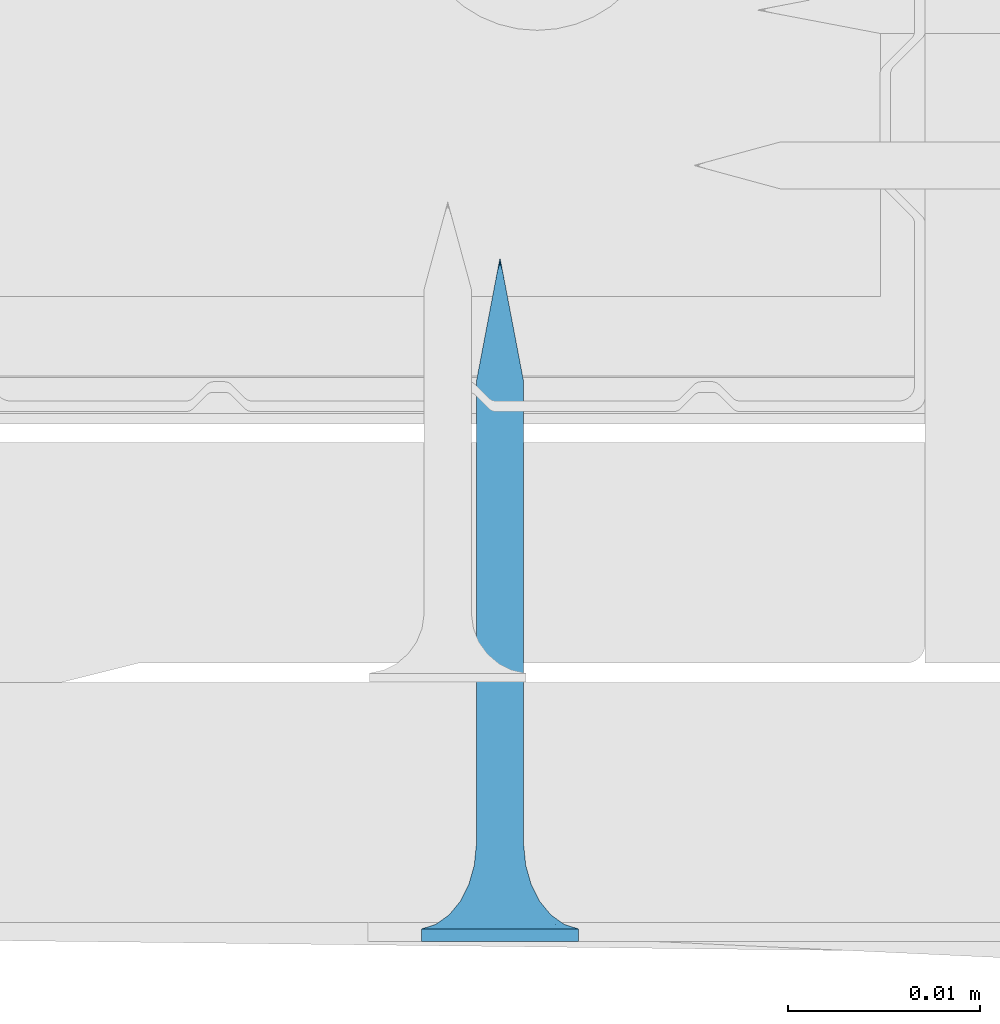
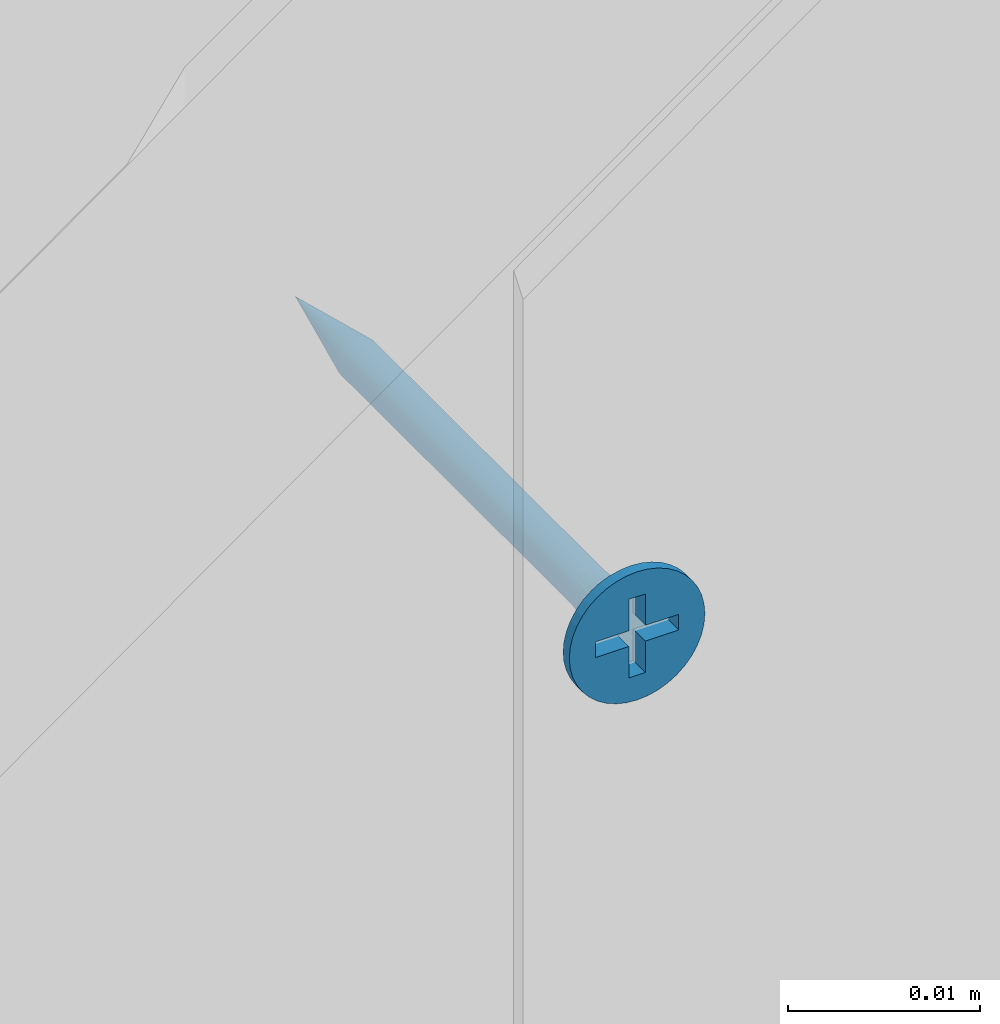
# One storey, part 33 of 43: 1 wall.
"""IFC2X3 building model written with IfcOpenShell, lengths in millimetres."""

from ifc_helpers import new_model, entity, si_unit, converted_unit, direction, frame, origin, origin_with_axes, place, context, project, spatial, faceted_brep, element, save


model = new_model("IFC2X3")

# Units and contexts
model_context = context("Model", 3, precision=1e-05, world=origin(), true_north=direction((0.0, 1.0, 0.0)))
ifc_project = project(units=[si_unit("LENGTHUNIT", "METRE", prefix="MILLI"), si_unit("AREAUNIT", "SQUARE_METRE"), si_unit("VOLUMEUNIT", "CUBIC_METRE"), converted_unit("PLANEANGLEUNIT", "DEGREE", entity("IfcPlaneAngleMeasure", 0.01745), si_unit("PLANEANGLEUNIT", "RADIAN"), dimensions=[0, 0, 0, 0, 0, 0, 0]), si_unit("SOLIDANGLEUNIT", "STERADIAN"), si_unit("MASSUNIT", "GRAM"), si_unit("TIMEUNIT", "SECOND"), si_unit("THERMODYNAMICTEMPERATUREUNIT", "DEGREE_CELSIUS"), si_unit("LUMINOUSINTENSITYUNIT", "LUMEN")], contexts=[model_context])

# Site, building, storey
site_placement = place(None, origin_with_axes())
site = spatial("IfcSite", under=ifc_project, at=site_placement, Name="Default Site", CompositionType="ELEMENT")
building_placement = place(site_placement, origin_with_axes())
building = spatial("IfcBuilding", under=site, at=building_placement, Name="Default Building", CompositionType="ELEMENT")
storey_placement = place(building_placement, origin_with_axes())
storey = spatial("IfcBuildingStorey", under=building, at=storey_placement, Name="Default Building Storey", CompositionType="ELEMENT", Elevation=0.0)

# Wall
wall_placement = place(storey_placement, frame((3636.691277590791, 6773.439791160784, 103.0621105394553), z_axis=(0.0, 0.0, 1.0), x_axis=(-1.0, 4.718447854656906e-16, 0.0)))
element("IfcWall", 1, at=wall_placement, inside=storey, Name="Wkręt RIGIPS TN 35", context=model_context, shape_type="Brep", body=[
    faceted_brep([(-141.5377463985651, 4832.598051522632, 555.8000000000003), (-141.5377463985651, 4833.259713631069, 555.8000000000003), (-141.4875329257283, 4833.259713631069, 555.1619773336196), (-141.4875329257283, 4832.598051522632, 555.1619773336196), (-141.3381289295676, 4833.259713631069, 554.5396649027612), (-141.3381289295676, 4832.598051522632, 554.5396649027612), (-141.0932132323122, 4833.259713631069, 553.9483861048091), (-141.0932132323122, 4832.598051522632, 553.9483861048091), (-140.7588164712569, 4833.259713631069, 553.4027001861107), (-140.7588164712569, 4832.598051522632, 553.4027001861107), (-140.3431726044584, 4833.259713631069, 552.9160437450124), (-140.4541727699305, 4832.598051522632, 553.0314907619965), (-140.1080097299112, 4832.598051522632, 552.6986614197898), (-139.8565161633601, 4833.259713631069, 552.5003998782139), (-139.7251262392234, 4832.598051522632, 552.4088262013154), (-139.3108302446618, 4833.259713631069, 552.1660031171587), (-139.3108302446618, 4832.598051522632, 552.1660031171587), (-138.8708651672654, 4832.598051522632, 551.9735584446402), (-138.7195514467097, 4833.259713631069, 551.9210874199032), (-138.4113302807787, 4832.598051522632, 551.8341600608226), (-137.9385961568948, 4832.598051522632, 551.7497404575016), (-138.0972390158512, 4833.259713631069, 551.7716834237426), (-137.4592163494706, 4833.259713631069, 551.7214699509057), (-137.4592163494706, 4832.598051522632, 551.7214699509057), (-136.8211936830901, 4833.259713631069, 551.7716834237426), (-136.8211936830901, 4832.598051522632, 551.7716834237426), (-136.1988812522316, 4833.259713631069, 551.9210874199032), (-136.1988812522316, 4832.598051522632, 551.9210874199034), (-135.6076024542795, 4833.259713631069, 552.1660031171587), (-135.6076024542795, 4832.598051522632, 552.1660031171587), (-135.0619165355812, 4833.259713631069, 552.5003998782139), (-135.0619165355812, 4832.598051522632, 552.5003998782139), (-134.5752600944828, 4833.259713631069, 552.9160437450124), (-134.5752600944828, 4832.598051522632, 552.9160437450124), (-134.1596162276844, 4833.259713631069, 553.4027001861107), (-134.1596162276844, 4832.598051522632, 553.4027001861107), (-133.8252194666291, 4833.259713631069, 553.9483861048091), (-133.8252194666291, 4832.598051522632, 553.9483861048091), (-133.5803037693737, 4833.259713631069, 554.5396649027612), (-133.5803037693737, 4832.598051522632, 554.5396649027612), (-133.430899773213, 4833.259713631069, 556.4380226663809), (-133.430899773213, 4832.598051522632, 556.4380226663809), (-133.3806863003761, 4832.598051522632, 555.8000000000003), (-133.3806863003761, 4833.259713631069, 555.8000000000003), (-133.430899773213, 4832.598051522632, 555.1619773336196), (-133.430899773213, 4833.259713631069, 555.1619773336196), (-133.5803037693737, 4833.259713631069, 557.0603350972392), (-133.5803037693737, 4832.598051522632, 557.0603350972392), (-133.8252194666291, 4833.259713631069, 557.6516138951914), (-133.8252194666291, 4832.598051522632, 557.6516138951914), (-134.1596162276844, 4833.259713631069, 558.1972998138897), (-134.1596162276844, 4832.598051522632, 558.1972998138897), (-134.5752600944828, 4833.259713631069, 558.683956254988), (-134.5752600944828, 4832.598051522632, 558.683956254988), (-135.0619165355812, 4833.259713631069, 559.0996001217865), (-135.0619165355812, 4832.598051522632, 559.0996001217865), (-135.6076024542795, 4833.259713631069, 559.4339968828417), (-135.6076024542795, 4832.598051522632, 559.4339968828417), (-136.1988812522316, 4833.259713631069, 559.6789125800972), (-136.1988812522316, 4832.598051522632, 559.6789125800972), (-136.8211936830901, 4833.259713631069, 559.8283165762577), (-136.8211936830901, 4832.598051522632, 559.8283165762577), (-137.4592163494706, 4833.259713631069, 559.8785300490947), (-137.4592163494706, 4832.598051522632, 559.8785300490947), (-138.0972390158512, 4833.259713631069, 559.8283165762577), (-138.0972390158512, 4832.598051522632, 559.8283165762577), (-138.7195514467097, 4833.259713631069, 559.6789125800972), (-138.7195514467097, 4832.598051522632, 559.6789125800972), (-139.3108302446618, 4833.259713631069, 559.4339968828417), (-139.3108302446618, 4832.598051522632, 559.4339968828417), (-139.8565161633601, 4833.259713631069, 559.0996001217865), (-139.8565161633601, 4832.598051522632, 559.0996001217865), (-140.3431726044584, 4833.259713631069, 558.683956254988), (-140.3431726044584, 4832.598051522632, 558.683956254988), (-140.7588164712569, 4833.259713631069, 558.1972998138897), (-140.7588164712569, 4832.598051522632, 558.1972998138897), (-141.0932132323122, 4833.259713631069, 557.6516138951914), (-141.0932132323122, 4832.598051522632, 557.6516138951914), (-141.3381289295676, 4833.259713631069, 557.0603350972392), (-141.3381289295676, 4832.598051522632, 557.0603350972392), (-141.4875329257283, 4833.259713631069, 556.4380226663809), (-141.4875329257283, 4832.598051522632, 556.4380226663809), (-137.8060615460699, 4829.281368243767, 554.5055560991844), (-137.4592163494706, 4828.206294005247, 554.5693795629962), (-137.651727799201, 4828.206294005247, 554.5845305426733), (-137.4592163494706, 4829.281368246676, 554.4598930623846), (-137.83949897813, 4828.206294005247, 554.6296104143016), (-138.1292698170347, 4829.281368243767, 554.639433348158), (-138.0179063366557, 4828.206294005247, 554.7035091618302), (-138.1825568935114, 4828.206294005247, 554.804407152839), (-138.4068150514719, 4829.281368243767, 554.8524012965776), (-138.329396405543, 4828.206294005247, 554.929819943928), (-138.6197830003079, 4829.281368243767, 555.1299465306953), (-138.4548091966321, 4828.206294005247, 555.0766594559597), (-138.5557071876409, 4828.206294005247, 555.2413100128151), (-138.7536602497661, 4829.281368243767, 555.4531548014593), (-138.6296059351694, 4828.206294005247, 555.4197173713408), (-138.6746858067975, 4828.206294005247, 555.60748855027), (-138.7993232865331, 4829.281368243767, 555.7999999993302), (-138.6898367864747, 4828.206294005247, 555.8000000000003), (-138.753660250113, 4829.281368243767, 556.1468451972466), (-138.6746858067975, 4828.206294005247, 555.9925114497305), (-138.6296059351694, 4828.206294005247, 556.1802826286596), (-138.6197830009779, 4829.281368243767, 556.4700534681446), (-138.5557071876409, 4828.206294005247, 556.3586899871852), (-138.4548091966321, 4828.206294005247, 556.5233405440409), (-138.4068150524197, 4829.281368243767, 556.7475987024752), (-138.329396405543, 4828.206294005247, 556.6701800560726), (-138.1292698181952, 4829.281368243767, 556.9605666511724), (-138.1825568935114, 4828.206294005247, 556.7955928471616), (-138.0179063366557, 4828.206294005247, 556.8964908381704), (-137.8060615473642, 4829.281368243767, 557.0944439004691), (-137.83949897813, 4828.206294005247, 556.9703895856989), (-137.651727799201, 4828.206294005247, 557.0154694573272), (-137.4592163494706, 4829.281368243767, 557.1401069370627), (-137.4592163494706, 4828.206294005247, 557.0306204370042), (-137.112371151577, 4829.281368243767, 557.0944439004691), (-137.2667048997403, 4828.206294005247, 557.0154694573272), (-137.0789337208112, 4828.206294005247, 556.9703895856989), (-136.7891628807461, 4829.281368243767, 556.9605666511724), (-136.9005263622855, 4828.206294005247, 556.8964908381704), (-136.7358758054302, 4828.206294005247, 556.7955928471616), (-136.5116176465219, 4829.281368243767, 556.7475987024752), (-136.5890362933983, 4828.206294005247, 556.6701800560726), (-136.2986496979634, 4829.281368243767, 556.4700534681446), (-136.4636235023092, 4828.206294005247, 556.5233405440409), (-136.3627255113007, 4828.206294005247, 556.3586899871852), (-136.1647724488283, 4829.281368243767, 556.1468451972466), (-136.2888267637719, 4828.206294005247, 556.1802826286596), (-136.2437468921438, 4828.206294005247, 555.9925114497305), (-136.1191094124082, 4829.281368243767, 555.7999999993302), (-136.2285959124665, 4828.206294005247, 555.8000000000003), (-136.1647724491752, 4829.281368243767, 555.4531548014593), (-136.2437468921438, 4828.206294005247, 555.60748855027), (-136.2888267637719, 4828.206294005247, 555.4197173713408), (-136.2986496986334, 4829.281368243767, 555.1299465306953), (-136.3627255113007, 4828.206294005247, 555.2413100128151), (-136.4636235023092, 4828.206294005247, 555.0766594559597), (-136.5116176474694, 4829.281368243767, 554.8524012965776), (-136.5890362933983, 4828.206294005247, 554.929819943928), (-136.7891628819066, 4829.281368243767, 554.639433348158), (-136.7358758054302, 4828.206294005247, 554.804407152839), (-136.9005263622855, 4828.206294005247, 554.7035091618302), (-137.1123711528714, 4829.281368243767, 554.5055560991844), (-137.0789337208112, 4828.206294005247, 554.6296104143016), (-137.2667048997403, 4828.206294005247, 554.5845305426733), (-137.4592163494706, 4830.288222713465, 554.1737111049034), (-137.8801308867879, 4830.288222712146, 554.229125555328), (-138.2723607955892, 4830.288222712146, 554.3915925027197), (-138.6091762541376, 4830.288222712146, 554.6500400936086), (-138.8676238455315, 4830.288222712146, 554.9868555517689), (-139.0300907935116, 4830.288222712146, 555.3790854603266), (-139.0855052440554, 4830.288222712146, 555.7999999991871), (-139.0300907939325, 4830.288222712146, 556.2209145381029), (-138.8676238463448, 4830.288222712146, 556.6131444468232), (-138.6091762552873, 4830.288222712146, 556.9499599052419), (-138.2723607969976, 4830.288222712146, 557.2084074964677), (-137.8801308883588, 4830.288222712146, 557.3708744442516), (-137.4592163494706, 4830.288222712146, 557.426288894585), (-137.0383018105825, 4830.288222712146, 557.3708744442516), (-136.6460719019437, 4830.288222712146, 557.2084074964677), (-136.309256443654, 4830.288222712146, 556.9499599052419), (-136.0508088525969, 4830.288222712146, 556.6131444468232), (-135.8883419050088, 4830.288222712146, 556.2209145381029), (-135.8329274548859, 4830.288222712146, 555.7999999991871), (-135.8883419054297, 4830.288222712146, 555.3790854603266), (-136.0508088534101, 4830.288222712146, 554.9868555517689), (-136.309256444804, 4830.288222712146, 554.6500400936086), (-136.6460719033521, 4830.288222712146, 554.3915925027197), (-137.0383018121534, 4830.288222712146, 554.229125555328), (-137.4592163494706, 4831.168773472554, 553.7273431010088), (-137.9956594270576, 4831.168773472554, 553.7979671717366), (-138.4955447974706, 4831.168773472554, 554.005026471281), (-138.9248060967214, 4831.168773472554, 554.3344102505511), (-139.2541898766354, 4831.168773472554, 554.7636715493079), (-139.4612491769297, 4831.168773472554, 555.2635569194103), (-139.5318732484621, 4831.168773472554, 555.7999999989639), (-139.461249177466, 4831.168773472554, 556.3364430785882), (-139.2541898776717, 4831.168773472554, 556.8363284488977), (-138.9248060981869, 4831.168773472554, 557.2655897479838), (-138.4955447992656, 4831.168773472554, 557.594973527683), (-137.9956594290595, 4831.168773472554, 557.8020328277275), (-137.4592163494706, 4831.168773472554, 557.8726568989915), (-136.9227732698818, 4831.168773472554, 557.8020328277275), (-136.4228878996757, 4831.168773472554, 557.594973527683), (-135.9936266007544, 4831.168773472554, 557.2655897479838), (-135.6642428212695, 4831.168773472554, 556.8363284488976), (-135.4571835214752, 4831.168773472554, 556.3364430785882), (-135.3865594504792, 4831.168773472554, 555.7999999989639), (-135.4571835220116, 4831.168773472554, 555.2635569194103), (-135.6642428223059, 4831.168773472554, 554.7636715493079), (-135.9936266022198, 4831.168773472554, 554.3344102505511), (-136.4228879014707, 4831.168773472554, 554.005026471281), (-136.9227732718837, 4831.168773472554, 553.7979671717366), (-137.4592163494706, 4831.872222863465, 553.1465393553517), (-138.1459824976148, 4831.872222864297, 553.2369538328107), (-138.7859466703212, 4831.872222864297, 553.5020356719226), (-139.3354963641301, 4831.872222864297, 553.9237199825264), (-139.7571806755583, 4831.872222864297, 554.4732696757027), (-140.02226251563, 4831.872222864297, 555.1132338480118), (-140.1126769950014, 4831.872222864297, 555.7999999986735), (-140.0222625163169, 4831.872222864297, 556.4867661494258), (-139.7571806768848, 4831.872222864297, 557.1267303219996), (-139.3354963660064, 4831.872222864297, 557.6762800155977), (-138.785946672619, 4831.872222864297, 558.0979643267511), (-138.1459825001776, 4831.872222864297, 558.3630461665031), (-137.4592163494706, 4831.872222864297, 558.4534606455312), (-136.7724501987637, 4831.872222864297, 558.3630461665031), (-136.1324860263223, 4831.872222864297, 558.0979643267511), (-135.5829363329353, 4831.872222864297, 557.6762800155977), (-135.1612520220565, 4831.872222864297, 557.1267303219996), (-134.8961701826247, 4831.872222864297, 556.4867661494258), (-134.8057557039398, 4831.872222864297, 555.7999999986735), (-134.8961701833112, 4831.872222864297, 555.1132338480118), (-135.161252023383, 4831.872222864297, 554.4732696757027), (-135.5829363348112, 4831.872222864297, 553.9237199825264), (-136.1324860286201, 4831.872222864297, 553.5020356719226), (-136.7724502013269, 4831.872222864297, 553.2369538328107), (-137.4592163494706, 4832.357989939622, 552.4648055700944), (-138.3224281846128, 4832.357989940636, 552.578449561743), (-139.1268135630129, 4832.357989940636, 552.9116368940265), (-139.8175549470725, 4832.357989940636, 553.4416613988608), (-140.3475794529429, 4832.357989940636, 554.1324027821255), (-140.6807667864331, 4832.357989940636, 554.9367881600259), (-140.7944107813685, 4832.357989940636, 555.7999999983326), (-140.6807667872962, 4832.357989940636, 556.6632118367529), (-140.3475794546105, 4832.357989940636, 557.4675972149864), (-139.817554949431, 4832.357989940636, 558.1583385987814), (-139.1268135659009, 4832.357989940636, 558.6883631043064), (-138.3224281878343, 4832.357989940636, 559.0215504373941), (-137.4592163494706, 4832.357989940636, 559.1351944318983), (-136.5960045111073, 4832.357989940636, 559.0215504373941), (-135.7916191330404, 4832.357989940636, 558.6883631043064), (-135.1008777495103, 4832.357989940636, 558.1583385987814), (-134.5708532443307, 4832.357989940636, 557.4675972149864), (-134.2376659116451, 4832.357989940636, 556.6632118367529), (-134.1240219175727, 4832.357989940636, 555.7999999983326), (-134.2376659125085, 4832.357989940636, 554.9367881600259), (-134.5708532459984, 4832.357989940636, 554.1324027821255), (-135.1008777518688, 4832.357989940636, 553.4416613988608), (-135.7916191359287, 4832.357989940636, 552.9116368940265), (-136.5960045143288, 4832.357989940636, 552.578449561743), (-138.6898367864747, 4804.093757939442, 555.8000000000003), (-138.6746858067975, 4804.093757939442, 555.60748855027), (-138.6296059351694, 4804.093757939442, 555.4197173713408), (-138.5557071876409, 4804.093757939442, 555.2413100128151), (-138.4548091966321, 4804.093757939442, 555.0766594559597), (-138.329396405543, 4804.093757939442, 554.929819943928), (-138.1825568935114, 4804.093757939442, 554.804407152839), (-138.0179063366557, 4804.093757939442, 554.7035091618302), (-137.83949897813, 4804.093757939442, 554.6296104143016), (-137.651727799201, 4804.093757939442, 554.5845305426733), (-137.4592163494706, 4804.093757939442, 554.5693795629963), (-137.2667048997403, 4804.093757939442, 554.5845305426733), (-137.0789337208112, 4804.093757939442, 554.6296104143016), (-136.9005263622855, 4804.093757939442, 554.7035091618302), (-136.7358758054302, 4804.093757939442, 554.804407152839), (-136.5890362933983, 4804.093757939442, 554.929819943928), (-136.4636235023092, 4804.093757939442, 555.0766594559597), (-136.3627255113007, 4804.093757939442, 555.2413100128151), (-136.2888267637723, 4804.093757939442, 555.4197173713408), (-136.2437468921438, 4804.093757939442, 555.9925114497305), (-136.2285959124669, 4804.093757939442, 555.8000000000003), (-136.2437468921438, 4804.093757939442, 555.60748855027), (-136.2888267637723, 4804.093757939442, 556.1802826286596), (-136.3627255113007, 4804.093757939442, 556.3586899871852), (-136.4636235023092, 4804.093757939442, 556.5233405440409), (-136.5890362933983, 4804.093757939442, 556.6701800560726), (-136.7358758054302, 4804.093757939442, 556.7955928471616), (-136.9005263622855, 4804.093757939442, 556.8964908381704), (-137.0789337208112, 4804.093757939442, 556.9703895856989), (-137.2667048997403, 4804.093757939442, 557.0154694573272), (-137.4592163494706, 4804.093757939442, 557.0306204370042), (-137.651727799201, 4804.093757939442, 557.0154694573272), (-137.83949897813, 4804.093757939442, 556.9703895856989), (-138.0179063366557, 4804.093757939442, 556.8964908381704), (-138.1825568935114, 4804.093757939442, 556.7955928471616), (-138.329396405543, 4804.093757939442, 556.6701800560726), (-138.4548091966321, 4804.093757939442, 556.5233405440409), (-138.5557071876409, 4804.093757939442, 556.3586899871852), (-138.6296059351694, 4804.093757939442, 556.1802826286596), (-138.6746858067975, 4804.093757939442, 555.9925114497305), (-137.4592163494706, 4797.627063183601, 555.8000000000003), (-139.9592163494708, 4833.259713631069, 556.3000000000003), (-137.9592163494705, 4833.259713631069, 556.3000000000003), (-139.9592163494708, 4833.259713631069, 555.3000000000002), (-137.9592163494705, 4833.259713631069, 555.3000000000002), (-137.9592163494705, 4833.259713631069, 553.3000000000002), (-136.9592163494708, 4833.259713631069, 553.3000000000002), (-136.9592163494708, 4833.259713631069, 555.3000000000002), (-134.9592163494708, 4833.259713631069, 555.3000000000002), (-134.9592163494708, 4833.259713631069, 556.3000000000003), (-136.9592163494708, 4833.259713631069, 556.3000000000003), (-136.9592163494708, 4833.259713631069, 558.3000000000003), (-137.9592163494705, 4833.259713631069, 558.3000000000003), (-136.9592163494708, 4831.988379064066, 556.3000000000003), (-134.9592163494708, 4831.988379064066, 556.3000000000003), (-134.9592163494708, 4831.988379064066, 555.3000000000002), (-136.9592163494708, 4831.988379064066, 555.3000000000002), (-136.9592163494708, 4831.988379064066, 553.3000000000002), (-137.9592163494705, 4831.988379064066, 553.3000000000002), (-137.9592163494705, 4831.988379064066, 555.3000000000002), (-139.9592163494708, 4831.988379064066, 555.3000000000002), (-139.9592163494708, 4831.988379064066, 556.3000000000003), (-137.9592163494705, 4831.988379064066, 556.3000000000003), (-137.9592163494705, 4831.988379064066, 558.3000000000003), (-136.9592163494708, 4831.988379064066, 558.3000000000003)], [[[0, 1, 2, 3]], [[4, 5, 3, 2]], [[6, 7, 5, 4]], [[7, 6, 8, 9]], [[8, 10, 9]], [[10, 11, 9]], [[12, 11, 13]], [[11, 10, 13]], [[13, 14, 12]], [[13, 15, 14]], [[15, 16, 14]], [[17, 16, 18]], [[16, 15, 18]], [[18, 19, 17]], [[20, 19, 21]], [[19, 18, 21]], [[21, 22, 20]], [[22, 23, 20]], [[23, 22, 24, 25]], [[26, 27, 25, 24]], [[28, 29, 27, 26]], [[29, 28, 30, 31]], [[32, 33, 31, 30]], [[33, 32, 34, 35]], [[36, 37, 35, 34]], [[38, 39, 37, 36]], [[40, 41, 42, 43]], [[43, 42, 44, 45]], [[39, 38, 45, 44]], [[46, 47, 41, 40]], [[48, 49, 47, 46]], [[49, 48, 50, 51]], [[52, 53, 51, 50]], [[53, 52, 54, 55]], [[56, 57, 55, 54]], [[58, 59, 57, 56]], [[59, 58, 60, 61]], [[62, 63, 61, 60]], [[63, 62, 64, 65]], [[66, 67, 65, 64]], [[68, 69, 67, 66]], [[69, 68, 70, 71]], [[72, 73, 71, 70]], [[73, 72, 74, 75]], [[76, 77, 75, 74]], [[78, 79, 77, 76]], [[79, 78, 80, 81]], [[1, 0, 81, 80]], [[82, 83, 84]], [[82, 85, 83]], [[84, 86, 82]], [[82, 86, 87]], [[88, 87, 86]], [[87, 88, 89]], [[89, 90, 87]], [[89, 91, 90]], [[92, 91, 93]], [[92, 90, 91]], [[93, 94, 92]], [[92, 94, 95]], [[96, 95, 94]], [[95, 96, 97]], [[97, 98, 95]], [[97, 99, 98]], [[100, 99, 101]], [[100, 98, 99]], [[101, 102, 100]], [[100, 102, 103]], [[104, 103, 102]], [[103, 104, 105]], [[105, 106, 103]], [[105, 107, 106]], [[108, 107, 109]], [[108, 106, 107]], [[109, 110, 108]], [[108, 110, 111]], [[112, 111, 110]], [[111, 112, 113]], [[113, 114, 111]], [[113, 115, 114]], [[116, 115, 117]], [[116, 114, 115]], [[117, 118, 116]], [[116, 118, 119]], [[120, 119, 118]], [[119, 120, 121]], [[121, 122, 119]], [[121, 123, 122]], [[124, 123, 125]], [[124, 122, 123]], [[125, 126, 124]], [[124, 126, 127]], [[128, 127, 126]], [[127, 128, 129]], [[129, 130, 127]], [[129, 131, 130]], [[132, 131, 133]], [[132, 130, 131]], [[133, 134, 132]], [[132, 134, 135]], [[136, 135, 134]], [[135, 136, 137]], [[137, 138, 135]], [[137, 139, 138]], [[140, 139, 141]], [[140, 138, 139]], [[141, 142, 140]], [[140, 142, 143]], [[144, 143, 142]], [[143, 144, 145]], [[145, 85, 143]], [[145, 83, 85]], [[146, 85, 147]], [[82, 147, 85]], [[87, 148, 147, 82]], [[90, 149, 148, 87]], [[92, 150, 149, 90]], [[95, 151, 150, 92]], [[98, 152, 151, 95]], [[100, 153, 152, 98]], [[103, 154, 153, 100]], [[106, 155, 154, 103]], [[108, 156, 155, 106]], [[111, 157, 156, 108]], [[114, 158, 157, 111]], [[116, 159, 158, 114]], [[119, 160, 159, 116]], [[122, 161, 160, 119]], [[124, 162, 161, 122]], [[127, 163, 162, 124]], [[130, 164, 163, 127]], [[132, 165, 164, 130]], [[135, 166, 165, 132]], [[138, 167, 166, 135]], [[140, 168, 167, 138]], [[143, 169, 168, 140]], [[143, 85, 169]], [[146, 169, 85]], [[170, 146, 171]], [[147, 171, 146]], [[148, 172, 171, 147]], [[149, 173, 172, 148]], [[150, 174, 173, 149]], [[151, 175, 174, 150]], [[152, 176, 175, 151]], [[153, 177, 176, 152]], [[154, 178, 177, 153]], [[155, 179, 178, 154]], [[156, 180, 179, 155]], [[157, 181, 180, 156]], [[158, 182, 181, 157]], [[159, 183, 182, 158]], [[160, 184, 183, 159]], [[161, 185, 184, 160]], [[162, 186, 185, 161]], [[163, 187, 186, 162]], [[164, 188, 187, 163]], [[165, 189, 188, 164]], [[166, 190, 189, 165]], [[167, 191, 190, 166]], [[168, 192, 191, 167]], [[169, 193, 192, 168]], [[169, 146, 193]], [[170, 193, 146]], [[194, 170, 195]], [[171, 195, 170]], [[172, 196, 195, 171]], [[173, 197, 196, 172]], [[174, 198, 197, 173]], [[175, 199, 198, 174]], [[176, 200, 199, 175]], [[177, 201, 200, 176]], [[178, 202, 201, 177]], [[179, 203, 202, 178]], [[180, 204, 203, 179]], [[181, 205, 204, 180]], [[182, 206, 205, 181]], [[183, 207, 206, 182]], [[184, 208, 207, 183]], [[185, 209, 208, 184]], [[186, 210, 209, 185]], [[187, 211, 210, 186]], [[188, 212, 211, 187]], [[189, 213, 212, 188]], [[190, 214, 213, 189]], [[191, 215, 214, 190]], [[192, 216, 215, 191]], [[193, 217, 216, 192]], [[193, 170, 217]], [[194, 217, 170]], [[218, 19, 20]], [[218, 219, 19]], [[20, 23, 218]], [[218, 194, 219]], [[195, 219, 194]], [[219, 16, 17]], [[219, 220, 16]], [[17, 19, 219]], [[196, 220, 219, 195]], [[221, 11, 12]], [[220, 12, 14]], [[220, 221, 12]], [[14, 16, 220]], [[197, 221, 220, 196]], [[222, 7, 9]], [[9, 221, 222]], [[9, 11, 221]], [[198, 222, 221, 197]], [[5, 7, 223]], [[222, 223, 7]], [[199, 223, 222, 198]], [[223, 0, 3]], [[223, 224, 0]], [[3, 5, 223]], [[200, 224, 223, 199]], [[225, 79, 81]], [[81, 224, 225]], [[81, 0, 224]], [[201, 225, 224, 200]], [[225, 226, 77, 79]], [[202, 226, 225, 201]], [[226, 73, 75]], [[226, 227, 73]], [[75, 77, 226]], [[203, 227, 226, 202]], [[228, 69, 71]], [[71, 227, 228]], [[71, 73, 227]], [[204, 228, 227, 203]], [[228, 229, 67, 69]], [[205, 229, 228, 204]], [[229, 63, 65]], [[229, 230, 63]], [[65, 67, 229]], [[206, 230, 229, 205]], [[231, 59, 61]], [[61, 230, 231]], [[61, 63, 230]], [[207, 231, 230, 206]], [[231, 232, 57, 59]], [[208, 232, 231, 207]], [[232, 53, 55]], [[232, 233, 53]], [[55, 57, 232]], [[209, 233, 232, 208]], [[234, 49, 51]], [[51, 233, 234]], [[51, 53, 233]], [[210, 234, 233, 209]], [[234, 235, 47, 49]], [[211, 235, 234, 210]], [[235, 42, 41]], [[235, 236, 42]], [[41, 47, 235]], [[212, 236, 235, 211]], [[237, 39, 44]], [[44, 236, 237]], [[44, 42, 236]], [[213, 237, 236, 212]], [[37, 39, 238]], [[237, 238, 39]], [[214, 238, 237, 213]], [[238, 33, 35]], [[238, 239, 33]], [[35, 37, 238]], [[215, 239, 238, 214]], [[240, 29, 31]], [[31, 239, 240]], [[31, 33, 239]], [[216, 240, 239, 215]], [[27, 29, 241]], [[240, 241, 29]], [[217, 241, 240, 216]], [[217, 194, 241]], [[218, 241, 194]], [[241, 23, 25]], [[241, 218, 23]], [[25, 27, 241]], [[242, 99, 97, 243]], [[96, 244, 243, 97]], [[94, 245, 244, 96]], [[245, 94, 93, 246]], [[91, 247, 246, 93]], [[247, 91, 89, 248]], [[88, 249, 248, 89]], [[86, 250, 249, 88]], [[250, 86, 84, 251]], [[83, 252, 251, 84]], [[252, 83, 145, 253]], [[144, 254, 253, 145]], [[142, 255, 254, 144]], [[255, 142, 141, 256]], [[139, 257, 256, 141]], [[257, 139, 137, 258]], [[136, 259, 258, 137]], [[134, 260, 259, 136]], [[129, 261, 262, 131]], [[131, 262, 263, 133]], [[260, 134, 133, 263]], [[128, 264, 261, 129]], [[126, 265, 264, 128]], [[265, 126, 125, 266]], [[123, 267, 266, 125]], [[267, 123, 121, 268]], [[120, 269, 268, 121]], [[118, 270, 269, 120]], [[270, 118, 117, 271]], [[115, 272, 271, 117]], [[272, 115, 113, 273]], [[112, 274, 273, 113]], [[110, 275, 274, 112]], [[275, 110, 109, 276]], [[107, 277, 276, 109]], [[277, 107, 105, 278]], [[104, 279, 278, 105]], [[102, 280, 279, 104]], [[280, 102, 101, 281]], [[99, 242, 281, 101]], [[243, 244, 282]], [[282, 242, 243]], [[244, 245, 282]], [[246, 247, 282]], [[282, 245, 246]], [[248, 249, 282]], [[282, 247, 248]], [[249, 250, 282]], [[251, 252, 282]], [[282, 250, 251]], [[253, 254, 282]], [[282, 252, 253]], [[254, 255, 282]], [[256, 257, 282]], [[282, 255, 256]], [[258, 259, 282]], [[282, 257, 258]], [[259, 260, 282]], [[263, 262, 282]], [[282, 260, 263]], [[261, 264, 282]], [[282, 262, 261]], [[264, 265, 282]], [[266, 267, 282]], [[282, 265, 266]], [[268, 269, 282]], [[282, 267, 268]], [[269, 270, 282]], [[271, 272, 282]], [[282, 270, 271]], [[273, 274, 282]], [[282, 272, 273]], [[274, 275, 282]], [[276, 277, 282]], [[282, 275, 276]], [[278, 279, 282]], [[282, 277, 278]], [[279, 280, 282]], [[281, 242, 282]], [[282, 280, 281]], [[283, 76, 74, 284]], [[283, 285, 286, 287, 288, 289, 290, 291, 292, 293, 294, 284, 74, 72, 70, 68, 66, 64, 62, 60, 58, 56, 54, 52, 50, 48, 46, 40, 43, 45, 38, 36, 34, 32, 30, 28, 26, 24, 22, 21, 18, 15, 13, 10, 8, 6, 4, 2, 1, 80, 78, 76]], [[295, 296, 297, 298, 299, 300, 301, 302, 303, 304, 305, 306]], [[297, 290, 289, 298]], [[296, 291, 290, 297]], [[295, 292, 291, 296]], [[306, 293, 292, 295]], [[305, 294, 293, 306]], [[304, 284, 294, 305]], [[303, 283, 284, 304]], [[302, 285, 283, 303]], [[301, 286, 285, 302]], [[300, 287, 286, 301]], [[299, 288, 287, 300]], [[298, 289, 288, 299]]]),
])

save(model, "model.ifc")
